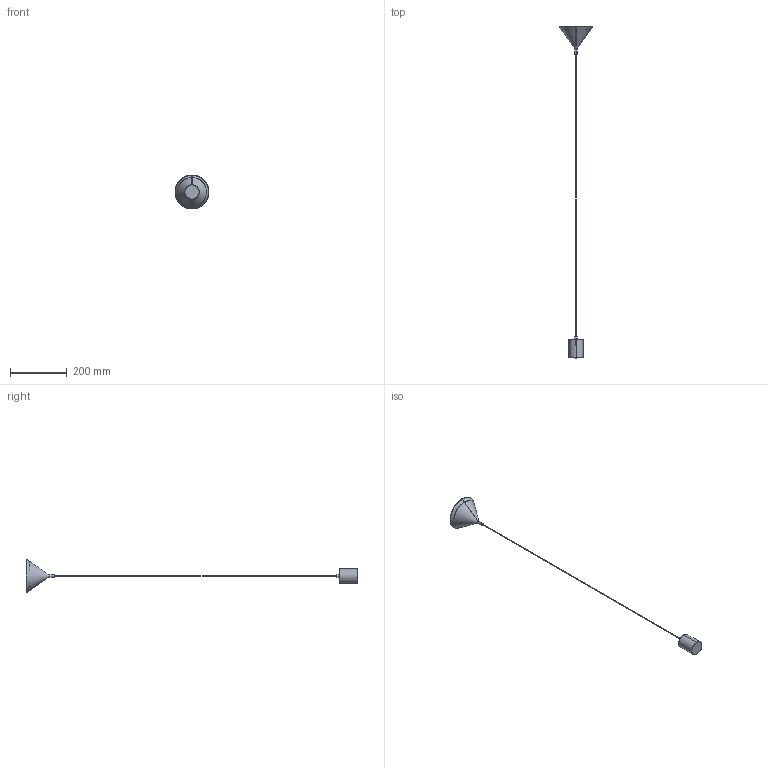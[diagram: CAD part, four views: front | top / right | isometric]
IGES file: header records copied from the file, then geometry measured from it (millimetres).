
Start section: SolidWorks IGES file using analytic representation for surfaces
Global section: file name: C:\Users\Agustin\Desktop\ENERO 2025\2D-3D\2D-3D ANZA 1336\2D-3D ANZA_C1336\ANZA_C1336.IGS; native system: SolidWorks 2018; preprocessor: SolidWorks 2018; author: Agustin; date: 250117.150430; units: millimetre
Bounding box: 119.07 x 1165 x 119.07 mm (x, y, z)
Surface area: 79347.2 mm2 (no closed solid volume)
Topology: 0 solids, 0 shells, 29 faces, 704 edges, 704 vertices
Faces by surface type: bspline 15, revolution 14
